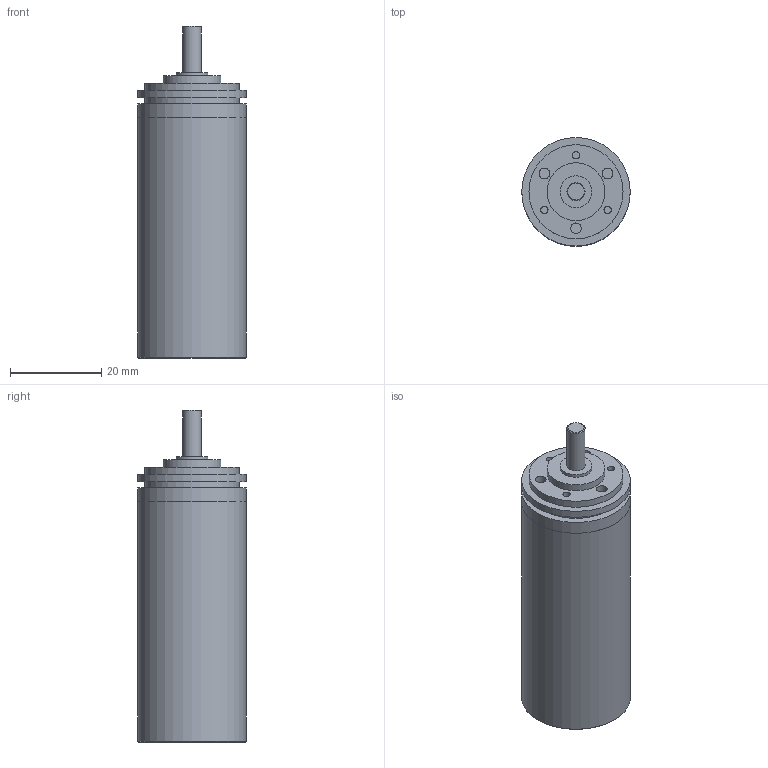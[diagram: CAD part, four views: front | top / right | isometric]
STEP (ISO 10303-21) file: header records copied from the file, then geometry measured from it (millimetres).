
FILE_DESCRIPTION(/* description */ (''),/* implementation_level */ '2;1');
FILE_NAME(/* name */ '22-2K_7.stp',/* time_stamp */ '2016-08-26T11:32:21+02:00',/* author */ ('DR. FRITZ FAULHABER GmbH & Co. KG'),/* organization */ ('DR. FRITZ FAULHABER GmbH & Co. KG'),/* preprocessor_version */ 'ST-DEVELOPER v16',/* originating_system */ 'SIEMENS PLM Software NX 10.0',/* authorisation */ '');
FILE_SCHEMA (('AUTOMOTIVE_DESIGN { 1 0 10303 214 3 1 1 1 }'));
Length unit declared in the file: millimetre
Products named in the file (1): H00000847_A
Bounding box: 23.8 x 23.8 x 72.8 mm (x, y, z)
Volume: 18926.9 mm3; surface area: 7469.7 mm2
Topology: 1 solids, 1 shells, 42 faces, 65 edges, 43 vertices
Faces by surface type: plane 20, cylinder 19, cone 3
Full cylindrical faces by diameter (mm): 1.6 x3, 2.329 x3, 3.5 x1, 4 x1, 4.5 x1, 7 x2, 12.7 x1, 20.63 x2, 22 x1, 23.79 x1, 23.8 x3
Entity records: 858 total; most frequent: DIRECTION 168, CARTESIAN_POINT 125, AXIS2_PLACEMENT_3D 84, EDGE_LOOP 82, ORIENTED_EDGE 82, FACE_BOUND 74, ADVANCED_FACE 42, VERTEX_POINT 41
